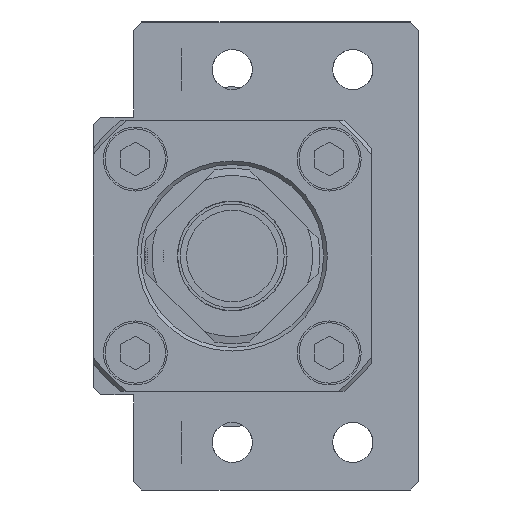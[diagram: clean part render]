
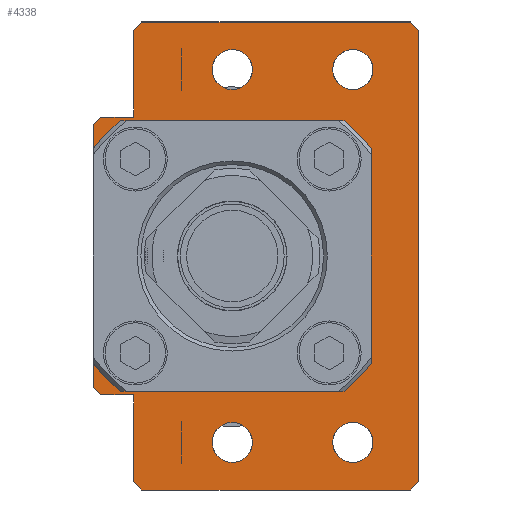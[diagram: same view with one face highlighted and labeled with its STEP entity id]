
A CAD part, left-side view. The second image highlights one B-rep face of the part: STEP entity #4338.
In plain terms, the highlighted planar face has unit normal (-1, 0, 0) as drawn and (0, 0, 1) by its records, which use the part's own axes.
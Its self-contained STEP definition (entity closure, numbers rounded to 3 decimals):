
#230=FACE_BOUND('',#820,.T.);
#231=FACE_BOUND('',#821,.T.);
#232=FACE_BOUND('',#822,.T.);
#233=FACE_BOUND('',#823,.T.);
#234=FACE_BOUND('',#824,.T.);
#367=PLANE('',#4764);
#535=FACE_OUTER_BOUND('',#819,.T.);
#819=EDGE_LOOP('',(#3356,#3357,#3358,#3359,#3360,#3361,#3362,#3363,#3364,
#3365,#3366,#3367,#3368,#3369));
#820=EDGE_LOOP('',(#3370));
#821=EDGE_LOOP('',(#3371));
#822=EDGE_LOOP('',(#3372));
#823=EDGE_LOOP('',(#3373));
#824=EDGE_LOOP('',(#3374,#3375,#3376,#3377,#3378,#3379,#3380,#3381));
#1077=LINE('',#7181,#1400);
#1141=LINE('',#7553,#1464);
#1144=LINE('',#7558,#1467);
#1146=LINE('',#7562,#1469);
#1148=LINE('',#7566,#1471);
#1150=LINE('',#7570,#1473);
#1152=LINE('',#7574,#1475);
#1154=LINE('',#7579,#1477);
#1157=LINE('',#7584,#1480);
#1159=LINE('',#7587,#1482);
#1160=LINE('',#7590,#1483);
#1162=LINE('',#7594,#1485);
#1164=LINE('',#7597,#1487);
#1165=LINE('',#7598,#1488);
#1166=LINE('',#7603,#1489);
#1167=LINE('',#7607,#1490);
#1168=LINE('',#7611,#1491);
#1169=LINE('',#7614,#1492);
#1400=VECTOR('',#5198,1000.);
#1464=VECTOR('',#5438,1000.);
#1467=VECTOR('',#5443,1000.);
#1469=VECTOR('',#5447,1000.);
#1471=VECTOR('',#5451,1000.);
#1473=VECTOR('',#5455,1000.);
#1475=VECTOR('',#5459,1000.);
#1477=VECTOR('',#5463,1000.);
#1480=VECTOR('',#5468,1000.);
#1482=VECTOR('',#5472,1000.);
#1483=VECTOR('',#5475,1000.);
#1485=VECTOR('',#5479,1000.);
#1487=VECTOR('',#5483,1000.);
#1488=VECTOR('',#5484,1000.);
#1489=VECTOR('',#5487,1000.);
#1490=VECTOR('',#5490,1000.);
#1491=VECTOR('',#5493,1000.);
#1492=VECTOR('',#5496,1000.);
#1717=CIRCLE('',#4647,5.5);
#1719=CIRCLE('',#4652,5.5);
#1721=CIRCLE('',#4657,5.5);
#1723=CIRCLE('',#4662,5.5);
#1778=CIRCLE('',#4765,47.);
#1779=CIRCLE('',#4766,47.);
#1780=CIRCLE('',#4767,47.);
#1781=CIRCLE('',#4768,47.);
#1911=VERTEX_POINT('',#6455);
#1925=VERTEX_POINT('',#6661);
#1939=VERTEX_POINT('',#6867);
#1953=VERTEX_POINT('',#7073);
#1961=VERTEX_POINT('',#7179);
#1962=VERTEX_POINT('',#7180);
#2064=VERTEX_POINT('',#7551);
#2065=VERTEX_POINT('',#7552);
#2066=VERTEX_POINT('',#7557);
#2067=VERTEX_POINT('',#7561);
#2068=VERTEX_POINT('',#7565);
#2069=VERTEX_POINT('',#7569);
#2070=VERTEX_POINT('',#7573);
#2071=VERTEX_POINT('',#7577);
#2072=VERTEX_POINT('',#7578);
#2073=VERTEX_POINT('',#7583);
#2074=VERTEX_POINT('',#7589);
#2075=VERTEX_POINT('',#7593);
#2076=VERTEX_POINT('',#7599);
#2077=VERTEX_POINT('',#7600);
#2078=VERTEX_POINT('',#7602);
#2079=VERTEX_POINT('',#7604);
#2080=VERTEX_POINT('',#7606);
#2081=VERTEX_POINT('',#7608);
#2082=VERTEX_POINT('',#7610);
#2083=VERTEX_POINT('',#7612);
#2339=EDGE_CURVE('',#1911,#1911,#1717,.T.);
#2356=EDGE_CURVE('',#1925,#1925,#1719,.T.);
#2373=EDGE_CURVE('',#1939,#1939,#1721,.T.);
#2390=EDGE_CURVE('',#1953,#1953,#1723,.T.);
#2400=EDGE_CURVE('',#1961,#1962,#1077,.T.);
#2543=EDGE_CURVE('',#2064,#2065,#1141,.T.);
#2546=EDGE_CURVE('',#2065,#2066,#1144,.T.);
#2548=EDGE_CURVE('',#2066,#2067,#1146,.T.);
#2550=EDGE_CURVE('',#2067,#2068,#1148,.T.);
#2552=EDGE_CURVE('',#2068,#2069,#1150,.T.);
#2554=EDGE_CURVE('',#2069,#2070,#1152,.T.);
#2556=EDGE_CURVE('',#2071,#2072,#1154,.T.);
#2559=EDGE_CURVE('',#2072,#2073,#1157,.T.);
#2561=EDGE_CURVE('',#2073,#2064,#1159,.T.);
#2562=EDGE_CURVE('',#2070,#2074,#1160,.T.);
#2564=EDGE_CURVE('',#2075,#2071,#1162,.T.);
#2566=EDGE_CURVE('',#1961,#2075,#1164,.T.);
#2567=EDGE_CURVE('',#2074,#1962,#1165,.T.);
#2568=EDGE_CURVE('',#2076,#2077,#1778,.T.);
#2569=EDGE_CURVE('',#2078,#2077,#1166,.T.);
#2570=EDGE_CURVE('',#2078,#2079,#1779,.T.);
#2571=EDGE_CURVE('',#2080,#2079,#1167,.T.);
#2572=EDGE_CURVE('',#2080,#2081,#1780,.T.);
#2573=EDGE_CURVE('',#2082,#2081,#1168,.T.);
#2574=EDGE_CURVE('',#2082,#2083,#1781,.T.);
#2575=EDGE_CURVE('',#2076,#2083,#1169,.T.);
#3356=ORIENTED_EDGE('',*,*,#2566,.T.);
#3357=ORIENTED_EDGE('',*,*,#2564,.T.);
#3358=ORIENTED_EDGE('',*,*,#2556,.T.);
#3359=ORIENTED_EDGE('',*,*,#2559,.T.);
#3360=ORIENTED_EDGE('',*,*,#2561,.T.);
#3361=ORIENTED_EDGE('',*,*,#2543,.T.);
#3362=ORIENTED_EDGE('',*,*,#2546,.T.);
#3363=ORIENTED_EDGE('',*,*,#2548,.T.);
#3364=ORIENTED_EDGE('',*,*,#2550,.T.);
#3365=ORIENTED_EDGE('',*,*,#2552,.T.);
#3366=ORIENTED_EDGE('',*,*,#2554,.T.);
#3367=ORIENTED_EDGE('',*,*,#2562,.T.);
#3368=ORIENTED_EDGE('',*,*,#2567,.T.);
#3369=ORIENTED_EDGE('',*,*,#2400,.F.);
#3370=ORIENTED_EDGE('',*,*,#2339,.T.);
#3371=ORIENTED_EDGE('',*,*,#2356,.T.);
#3372=ORIENTED_EDGE('',*,*,#2373,.T.);
#3373=ORIENTED_EDGE('',*,*,#2390,.T.);
#3374=ORIENTED_EDGE('',*,*,#2568,.T.);
#3375=ORIENTED_EDGE('',*,*,#2569,.F.);
#3376=ORIENTED_EDGE('',*,*,#2570,.T.);
#3377=ORIENTED_EDGE('',*,*,#2571,.F.);
#3378=ORIENTED_EDGE('',*,*,#2572,.T.);
#3379=ORIENTED_EDGE('',*,*,#2573,.F.);
#3380=ORIENTED_EDGE('',*,*,#2574,.T.);
#3381=ORIENTED_EDGE('',*,*,#2575,.F.);
#4338=ADVANCED_FACE('',(#535,#230,#231,#232,#233,#234),#367,.T.);
#4647=AXIS2_PLACEMENT_3D('',#6456,#5149,#5150);
#4652=AXIS2_PLACEMENT_3D('',#6662,#5162,#5163);
#4657=AXIS2_PLACEMENT_3D('',#6868,#5175,#5176);
#4662=AXIS2_PLACEMENT_3D('',#7074,#5188,#5189);
#4764=AXIS2_PLACEMENT_3D('',#7596,#5481,#5482);
#4765=AXIS2_PLACEMENT_3D('',#7601,#5485,#5486);
#4766=AXIS2_PLACEMENT_3D('',#7605,#5488,#5489);
#4767=AXIS2_PLACEMENT_3D('',#7609,#5491,#5492);
#4768=AXIS2_PLACEMENT_3D('',#7613,#5494,#5495);
#5149=DIRECTION('center_axis',(0.,0.,-1.));
#5150=DIRECTION('ref_axis',(1.,0.,0.));
#5162=DIRECTION('center_axis',(0.,0.,-1.));
#5163=DIRECTION('ref_axis',(1.,0.,0.));
#5175=DIRECTION('center_axis',(0.,0.,-1.));
#5176=DIRECTION('ref_axis',(1.,0.,0.));
#5188=DIRECTION('center_axis',(0.,0.,-1.));
#5189=DIRECTION('ref_axis',(1.,0.,0.));
#5198=DIRECTION('',(1.,0.,0.));
#5438=DIRECTION('',(0.707,-0.707,0.));
#5443=DIRECTION('',(1.,0.,0.));
#5447=DIRECTION('',(0.707,0.707,0.));
#5451=DIRECTION('',(0.,1.,0.));
#5455=DIRECTION('',(-0.707,0.707,0.));
#5459=DIRECTION('',(-1.,0.,0.));
#5463=DIRECTION('',(-1.,0.,0.));
#5468=DIRECTION('',(-0.707,-0.707,0.));
#5472=DIRECTION('',(0.,-1.,0.));
#5475=DIRECTION('',(0.,1.,0.));
#5479=DIRECTION('',(0.,-1.,0.));
#5481=DIRECTION('center_axis',(0.,0.,1.));
#5482=DIRECTION('ref_axis',(1.,0.,0.));
#5483=DIRECTION('',(-0.707,-0.707,0.));
#5484=DIRECTION('',(-0.707,0.707,0.));
#5485=DIRECTION('center_axis',(0.,0.,-1.));
#5486=DIRECTION('ref_axis',(-1.,0.,0.));
#5487=DIRECTION('',(-1.,0.,0.));
#5488=DIRECTION('center_axis',(0.,0.,-1.));
#5489=DIRECTION('ref_axis',(-1.,0.,0.));
#5490=DIRECTION('',(0.,1.,0.));
#5491=DIRECTION('center_axis',(0.,0.,-1.));
#5492=DIRECTION('ref_axis',(-1.,0.,0.));
#5493=DIRECTION('',(1.,0.,0.));
#5494=DIRECTION('center_axis',(0.,0.,-1.));
#5495=DIRECTION('ref_axis',(-1.,0.,0.));
#5496=DIRECTION('',(0.,-1.,0.));
#6455=CARTESIAN_POINT('',(-56.5,0.,0.));
#6456=CARTESIAN_POINT('Origin',(-51.,0.,0.));
#6661=CARTESIAN_POINT('',(45.5,0.,0.));
#6662=CARTESIAN_POINT('Origin',(51.,0.,0.));
#6867=CARTESIAN_POINT('',(-56.5,-33.,0.));
#6868=CARTESIAN_POINT('Origin',(-51.,-33.,0.));
#7073=CARTESIAN_POINT('',(45.5,-33.,0.));
#7074=CARTESIAN_POINT('Origin',(51.,-33.,0.));
#7179=CARTESIAN_POINT('',(-36.,38.,0.));
#7180=CARTESIAN_POINT('',(36.,38.,0.));
#7181=CARTESIAN_POINT('',(36.,38.,0.));
#7551=CARTESIAN_POINT('',(-64.,-48.72,0.));
#7552=CARTESIAN_POINT('',(-61.72,-51.,0.));
#7553=CARTESIAN_POINT('',(-64.,-48.72,0.));
#7557=CARTESIAN_POINT('',(61.72,-51.,0.));
#7558=CARTESIAN_POINT('',(-61.72,-51.,0.));
#7561=CARTESIAN_POINT('',(64.,-48.72,0.));
#7562=CARTESIAN_POINT('',(61.72,-51.,0.));
#7565=CARTESIAN_POINT('',(64.,24.72,0.));
#7566=CARTESIAN_POINT('',(64.,-48.72,0.));
#7569=CARTESIAN_POINT('',(61.72,27.,0.));
#7570=CARTESIAN_POINT('',(64.,24.72,0.));
#7573=CARTESIAN_POINT('',(38.,27.,0.));
#7574=CARTESIAN_POINT('',(61.72,27.,0.));
#7577=CARTESIAN_POINT('',(-38.,27.,0.));
#7578=CARTESIAN_POINT('',(-61.72,27.,0.));
#7579=CARTESIAN_POINT('',(-38.,27.,0.));
#7583=CARTESIAN_POINT('',(-64.,24.72,0.));
#7584=CARTESIAN_POINT('',(-61.72,27.,0.));
#7587=CARTESIAN_POINT('',(-64.,24.72,0.));
#7589=CARTESIAN_POINT('',(38.,36.,0.));
#7590=CARTESIAN_POINT('',(38.,27.,0.));
#7593=CARTESIAN_POINT('',(-38.,36.,0.));
#7594=CARTESIAN_POINT('',(-38.,36.,0.));
#7596=CARTESIAN_POINT('Origin',(0.,0.,0.));
#7597=CARTESIAN_POINT('',(-36.,38.,0.));
#7598=CARTESIAN_POINT('',(38.,36.,0.));
#7599=CARTESIAN_POINT('',(-36.98,29.008,0.));
#7600=CARTESIAN_POINT('',(-27.686,37.98,0.));
#7601=CARTESIAN_POINT('Origin',(0.,0.,0.));
#7602=CARTESIAN_POINT('',(27.686,37.98,0.));
#7603=CARTESIAN_POINT('',(36.98,37.98,0.));
#7604=CARTESIAN_POINT('',(36.98,29.008,0.));
#7605=CARTESIAN_POINT('Origin',(0.,0.,0.));
#7606=CARTESIAN_POINT('',(36.98,-29.008,0.));
#7607=CARTESIAN_POINT('',(36.98,-37.98,0.));
#7608=CARTESIAN_POINT('',(27.686,-37.98,0.));
#7609=CARTESIAN_POINT('Origin',(0.,0.,0.));
#7610=CARTESIAN_POINT('',(-27.686,-37.98,0.));
#7611=CARTESIAN_POINT('',(-36.98,-37.98,0.));
#7612=CARTESIAN_POINT('',(-36.98,-29.008,0.));
#7613=CARTESIAN_POINT('Origin',(0.,0.,0.));
#7614=CARTESIAN_POINT('',(-36.98,37.98,0.));
